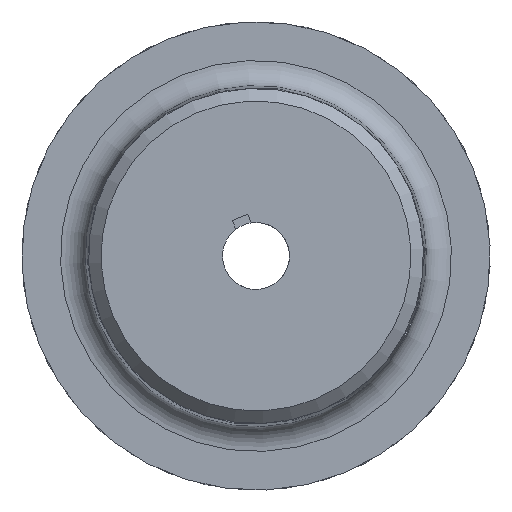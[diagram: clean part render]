
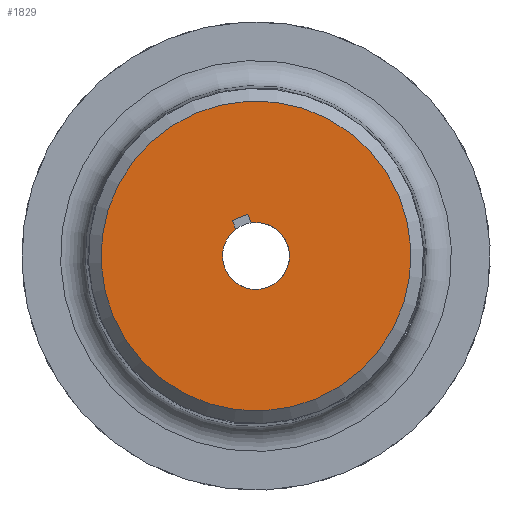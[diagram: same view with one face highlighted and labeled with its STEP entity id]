
A CAD part, left-side view. The second image highlights one B-rep face of the part: STEP entity #1829.
In plain terms, the highlighted planar face has unit normal (-1, 0, 0) as drawn and (0, 0, -1) by its records, which use the part's own axes.
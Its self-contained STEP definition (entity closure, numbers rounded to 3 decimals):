
#140=LINE('',#4432,#177);
#143=LINE('',#4438,#180);
#146=LINE('',#4444,#183);
#177=VECTOR('',#2490,10.);
#180=VECTOR('',#2495,10.);
#183=VECTOR('',#2500,10.);
#221=FACE_BOUND('',#451,.T.);
#324=FACE_OUTER_BOUND('',#450,.T.);
#450=EDGE_LOOP('',(#1674));
#451=EDGE_LOOP('',(#1675,#1676,#1677,#1678));
#638=CIRCLE('',#2082,4.);
#679=CIRCLE('',#2150,18.528);
#816=VERTEX_POINT('',#4429);
#817=VERTEX_POINT('',#4431);
#819=VERTEX_POINT('',#4437);
#821=VERTEX_POINT('',#4443);
#865=VERTEX_POINT('',#4683);
#1068=EDGE_CURVE('',#817,#816,#140,.T.);
#1071=EDGE_CURVE('',#819,#817,#143,.T.);
#1074=EDGE_CURVE('',#821,#819,#146,.T.);
#1077=EDGE_CURVE('',#816,#821,#638,.T.);
#1141=EDGE_CURVE('',#865,#865,#679,.T.);
#1674=ORIENTED_EDGE('',*,*,#1141,.F.);
#1675=ORIENTED_EDGE('',*,*,#1074,.T.);
#1676=ORIENTED_EDGE('',*,*,#1071,.T.);
#1677=ORIENTED_EDGE('',*,*,#1068,.T.);
#1678=ORIENTED_EDGE('',*,*,#1077,.T.);
#1726=PLANE('',#2151);
#1829=ADVANCED_FACE('',(#324,#221),#1726,.T.);
#2082=AXIS2_PLACEMENT_3D('',#4448,#2506,#2507);
#2150=AXIS2_PLACEMENT_3D('',#4685,#2645,#2646);
#2151=AXIS2_PLACEMENT_3D('',#4686,#2647,#2648);
#2490=DIRECTION('',(1.,0.,0.));
#2495=DIRECTION('',(0.,-1.,0.));
#2500=DIRECTION('',(-1.,0.,0.));
#2506=DIRECTION('center_axis',(0.,0.,
1.));
#2507=DIRECTION('ref_axis',(1.,0.,0.));
#2645=DIRECTION('center_axis',(0.,0.,
1.));
#2646=DIRECTION('ref_axis',(0.,-1.,0.));
#2647=DIRECTION('center_axis',(0.,0.,
-1.));
#2648=DIRECTION('ref_axis',(0.,-1.,0.));
#4429=CARTESIAN_POINT('',(-3.873,-1.,-30.));
#4431=CARTESIAN_POINT('',(-5.,-1.,-30.));
#4432=CARTESIAN_POINT('',(-2.5,-1.,-30.));
#4437=CARTESIAN_POINT('',(-5.,1.,-30.));
#4438=CARTESIAN_POINT('',(-5.,0.5,-30.));
#4443=CARTESIAN_POINT('',(-3.873,1.,-30.));
#4444=CARTESIAN_POINT('',(-1.936,1.,-30.));
#4448=CARTESIAN_POINT('Origin',(0.,0.,
-30.));
#4683=CARTESIAN_POINT('',(0.,18.528,-30.));
#4685=CARTESIAN_POINT('Origin',(0.,0.,-30.));
#4686=CARTESIAN_POINT('Origin',(0.,0.,
-30.));
